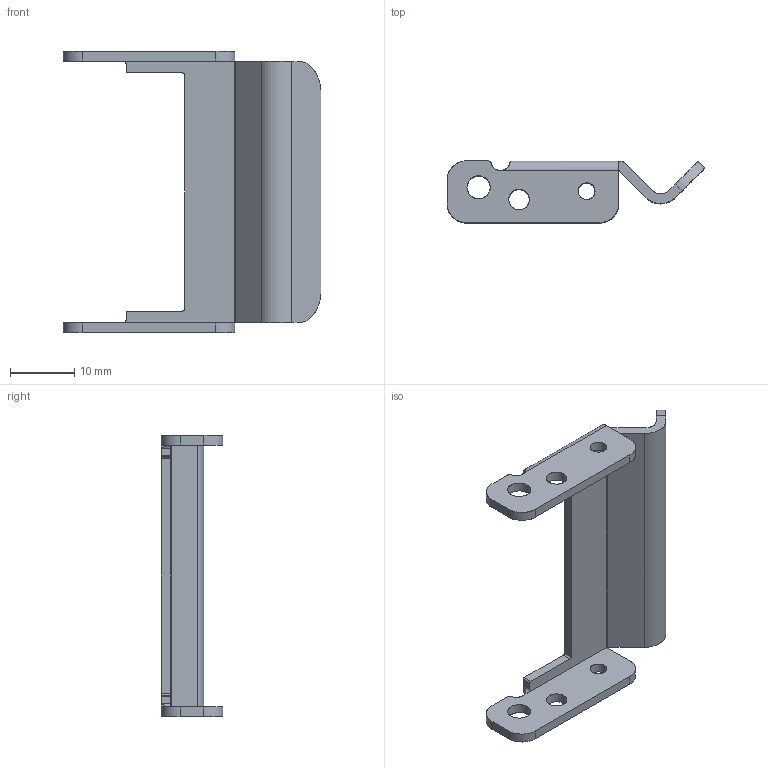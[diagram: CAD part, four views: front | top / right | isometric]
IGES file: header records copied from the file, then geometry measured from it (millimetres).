
Start section: SolidWorks IGES FILE using analytic representation for surfaces
Global section: file name: C:\Documents and Settings\lecoutey\Bureau\GP 2013\1086.010.10.IGS; native system: SolidWorks 2004 by SolidWorks Corporation; preprocessor: Version 5.3; author: lecoutey; date: 050329.162107; units: millimetre
Bounding box: 40.09 x 9.6 x 43.7 mm (x, y, z)
Surface area: 3370.4 mm2 (no closed solid volume)
Topology: 0 solids, 0 shells, 62 faces, 970 edges, 970 vertices
Faces by surface type: revolution 36, bspline 26
